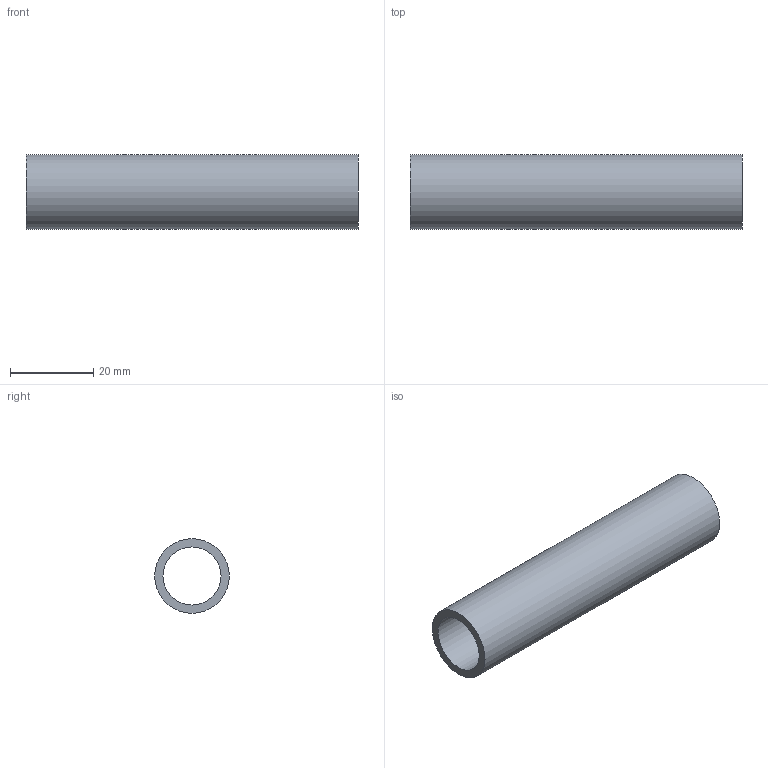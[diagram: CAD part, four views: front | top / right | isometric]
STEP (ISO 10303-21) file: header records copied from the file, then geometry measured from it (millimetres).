
FILE_DESCRIPTION((''),'2;1');
FILE_NAME('S:\Användarkataloger\AndreasA\Mina Inventor filer\Räcken\STEP\plunsch_25x2.stp','2010-09-07T13:44:16',('AndreasA'),(''),'Autodesk Inventor 2011','Autodesk Inventor 2011','');
FILE_SCHEMA(('AUTOMOTIVE_DESIGN { 1 0 10303 214 1 1 1 1 }'));
Length unit declared in the file: millimetre
Products named in the file (1): plunsch_25x2
Bounding box: 80 x 18 x 18 mm (x, y, z)
Volume: 8042.5 mm3; surface area: 8243.5 mm2
Topology: 1 solids, 1 shells, 4 faces, 6 edges, 4 vertices
Faces by surface type: cylinder 2, plane 2
Full cylindrical faces by diameter (mm): 14 x1, 18 x1
Entity records: 114 total; most frequent: DIRECTION 18, CARTESIAN_POINT 13, AXIS2_PLACEMENT_3D 9, ORIENTED_EDGE 8, EDGE_LOOP 8, VERTEX_POINT 4, CIRCLE 4, EDGE_CURVE 4
